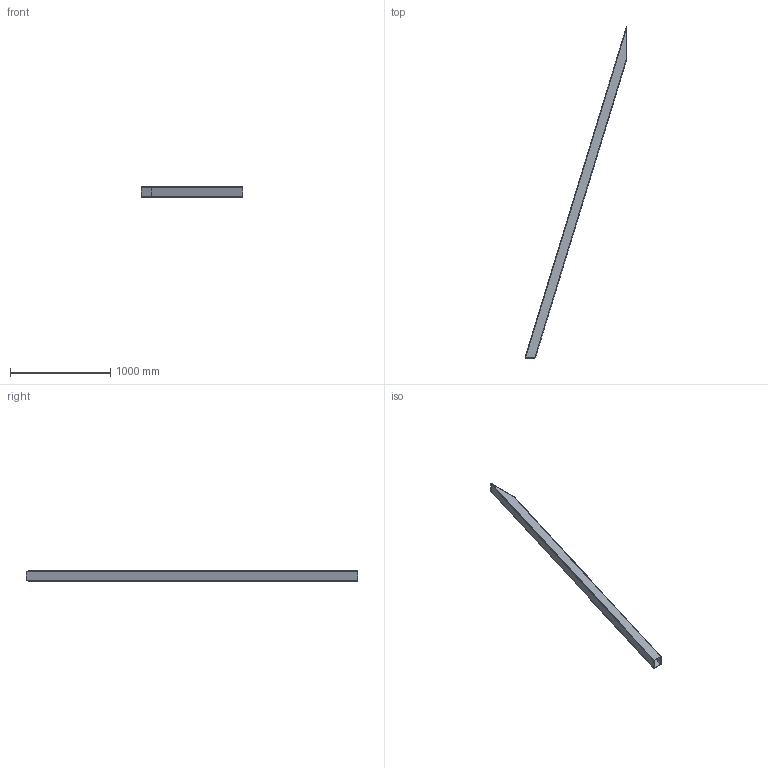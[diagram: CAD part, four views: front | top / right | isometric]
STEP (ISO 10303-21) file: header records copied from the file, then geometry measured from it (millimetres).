
FILE_DESCRIPTION(/* description */ (''),/* implementation_level */ '2;1');
FILE_NAME(/* name */ '2020TOMO-TELAIO-ASSY.00_v12-Part_10.stp',/* time_stamp */ '2022-05-16T13:35:49+02:00',/* author */ (''),/* organization */ (''),/* preprocessor_version */ 'ST-DEVELOPER v18.102',/* originating_system */ 'SIEMENS PLM Software NX 2000',/* authorisation */ '');
FILE_SCHEMA (('AUTOMOTIVE_DESIGN { 1 0 10303 214 3 1 1 1 }'));
Length unit declared in the file: millimetre
Products named in the file (1): turc3144724Fyy79
Bounding box: 1017.17 x 3310.66 x 100 mm (x, y, z)
Volume: 3915922.4 mm3; surface area: 2574585.1 mm2
Topology: 2 solids, 2 shells, 28 faces, 72 edges, 48 vertices
Faces by surface type: plane 16, cylinder 8, extrusion 4
Entity records: 913 total; most frequent: CARTESIAN_POINT 164, DIRECTION 150, ORIENTED_EDGE 144, EDGE_CURVE 72, VECTOR 50, AXIS2_PLACEMENT_3D 50, VERTEX_POINT 48, LINE 46
